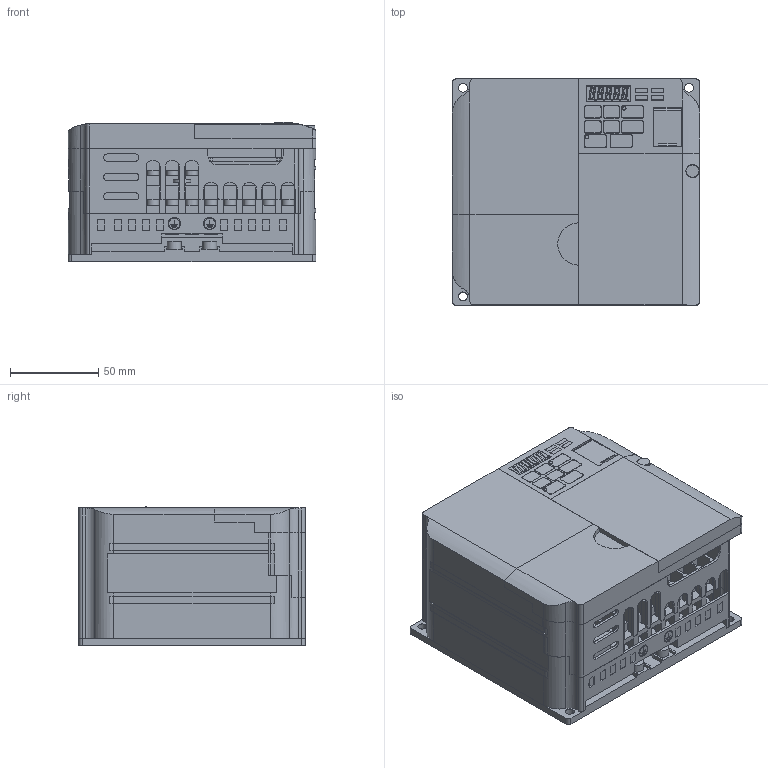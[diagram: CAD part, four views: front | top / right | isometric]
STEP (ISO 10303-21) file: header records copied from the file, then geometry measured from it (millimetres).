
FILE_DESCRIPTION((''),'2;1');
FILE_NAME('V1000_FINLESS_FRAME_G_ASM','2010-07-20T',('jc'),('YASKAWA ELECTRIC CORCORATION'),'PRO/ENGINEER BY PARAMETRIC TECHNOLOGY CORPORATION, 2008490','PRO/ENGINEER BY PARAMETRIC TECHNOLOGY CORPORATION, 2008490','');
FILE_SCHEMA(('CONFIG_CONTROL_DESIGN'));
Length unit declared in the file: millimetre
Products named in the file (23): NONE-41517; ASM0085_ASM; NONE-13687; ASM0086_ASM; NONE-35814; ASM0087_ASM; NONE-31096; ASM0088_ASM; NONE-32700; SHITA_COVER_C1________ANY_ASM; NONE-30474; TANSHI_COVER_C________ANY_ASM; NONE-41705; ASM0089_ASM; NONE-45838; BASE_CASE_C1________ANY_ASM; NONE-22089; BASE_HEATSINK_C2________ANY_ASM; NONE-42207; ASM0090_ASM; CIMR_VZ4A0011JAA_ANY_ASM; _2A0020J_4A0011J; V1000_FINLESS_FRAME_G_ASM
Assembly tree (22 placements, depth 4):
  V1000_FINLESS_FRAME_G_ASM
    CIMR_VZ4A0011JAA_ANY_ASM
      ASM0085_ASM
        NONE-41517
      ASM0086_ASM
        NONE-13687
      ASM0087_ASM
        NONE-35814
      ASM0088_ASM
        NONE-31096
      SHITA_COVER_C1________ANY_ASM
        NONE-32700
      TANSHI_COVER_C________ANY_ASM
        NONE-30474
      ASM0089_ASM
        NONE-41705
      BASE_CASE_C1________ANY_ASM
        NONE-45838
      BASE_HEATSINK_C2________ANY_ASM
        NONE-22089
      ASM0090_ASM
        NONE-42207
    _2A0020J_4A0011J
Bounding box: 140 x 128 x 79 mm (x, y, z)
Volume: 1052013.4 mm3; surface area: 209764.6 mm2
Topology: 10 solids, 10 shells, 1793 faces, 4837 edges, 3203 vertices
Faces by surface type: plane 1448, cylinder 345
Entity records: 56422 total; most frequent: CARTESIAN_POINT 9995, ORIENTED_EDGE 9674, DIRECTION 9310, EDGE_CURVE 4837, VECTOR 4054, LINE 4054, VERTEX_POINT 3203, AXIS2_PLACEMENT_3D 2628
